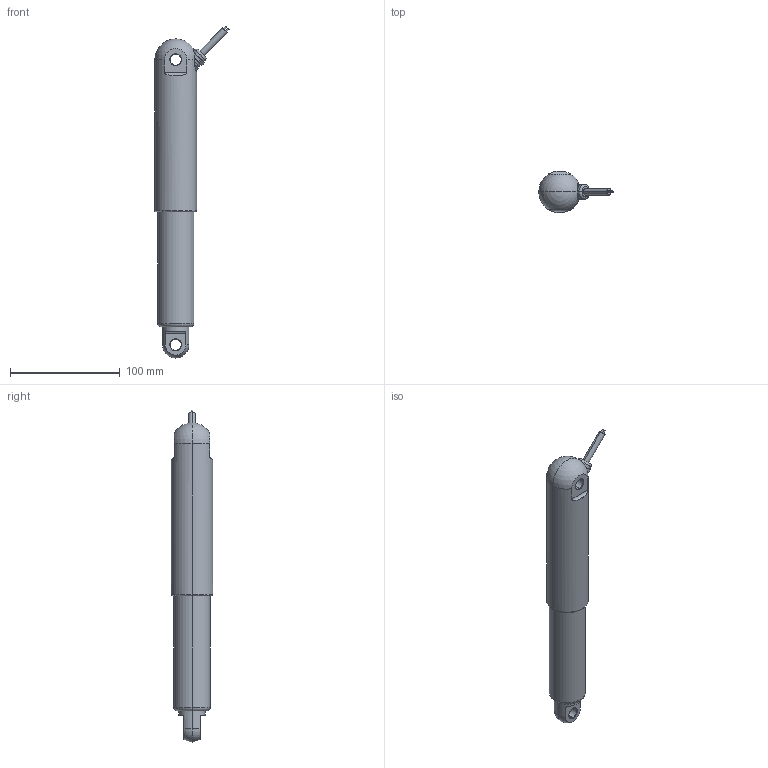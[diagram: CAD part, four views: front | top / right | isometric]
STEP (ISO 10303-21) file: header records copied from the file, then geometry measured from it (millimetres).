
FILE_DESCRIPTION((''),'2;1');
FILE_NAME('ST38-50MM-210','2016-12-15T',('Aklek'),(''),'PRO/ENGINEER BY PARAMETRIC TECHNOLOGY CORPORATION, 2010100','PRO/ENGINEER BY PARAMETRIC TECHNOLOGY CORPORATION, 2010100','');
FILE_SCHEMA(('CONFIG_CONTROL_DESIGN'));
Length unit declared in the file: millimetre
Products named in the file (1): ST38-50MM-210
Bounding box: 67.76 x 38 x 302.76 mm (x, y, z)
Volume: 264958.2 mm3; surface area: 35515 mm2
Topology: 1 solids, 2 shells, 92 faces, 223 edges, 141 vertices
Faces by surface type: cylinder 41, plane 33, cone 8, torus 6, sphere 4
Entity records: 2823 total; most frequent: CARTESIAN_POINT 567, DIRECTION 498, ORIENTED_EDGE 438, EDGE_CURVE 219, AXIS2_PLACEMENT_3D 201, VERTEX_POINT 141, CIRCLE 109, EDGE_LOOP 106
